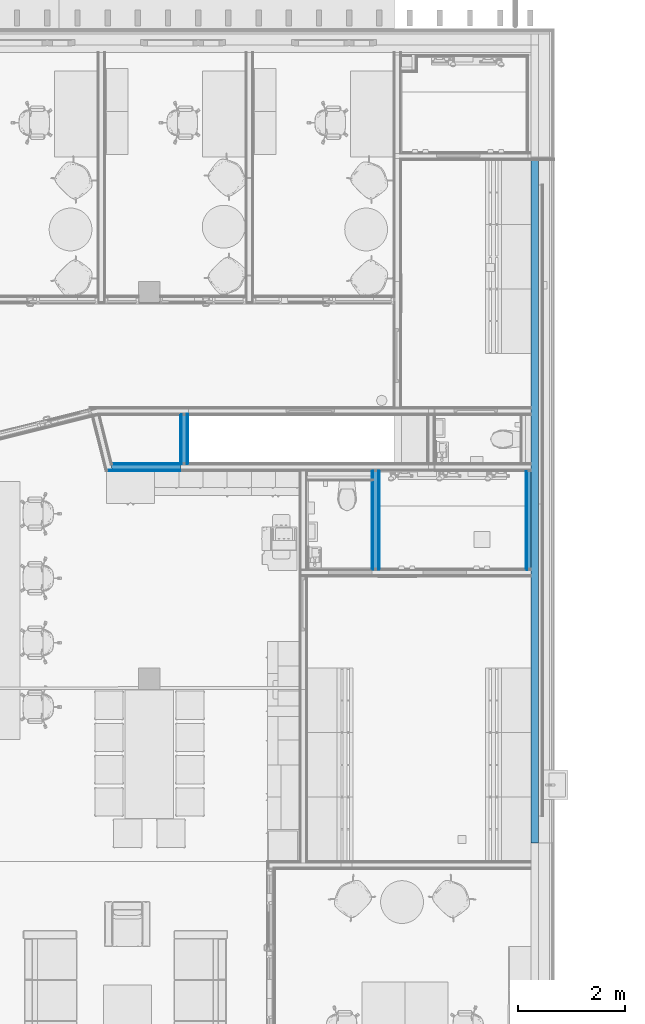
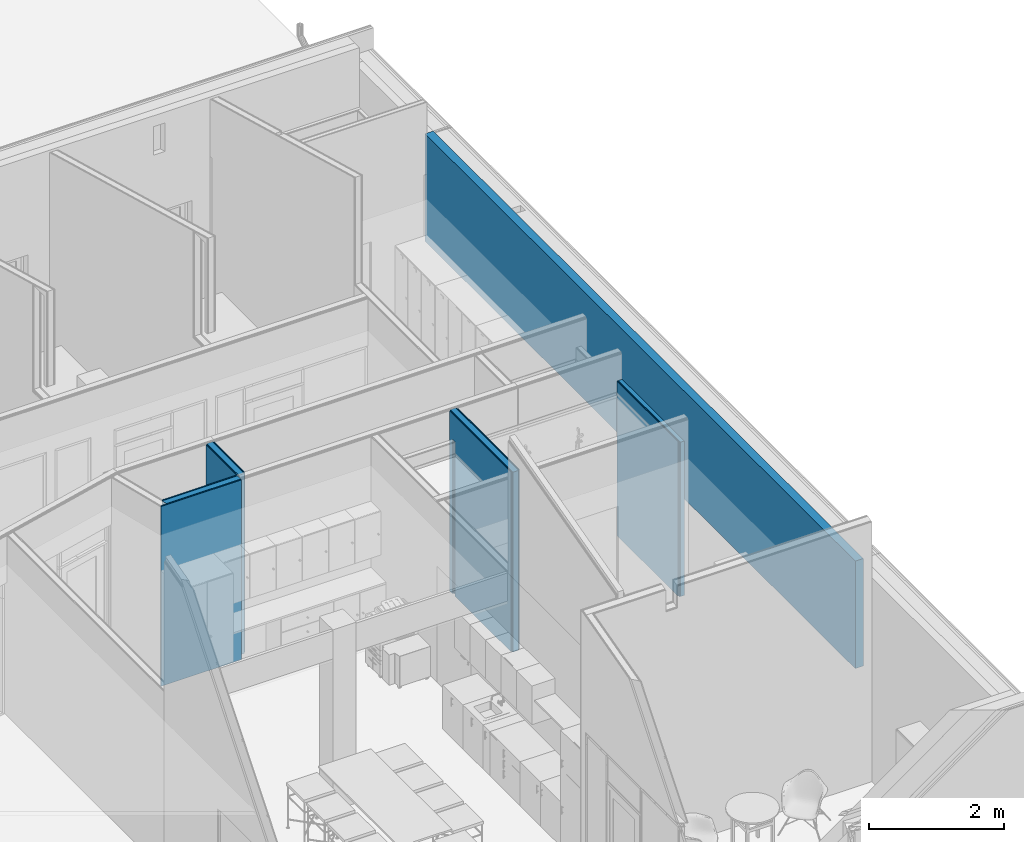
# One storey, part 79 of 153: 19 building element parts, 5 elements without a shape of their own.
"""IFC2X3 building model written with IfcOpenShell, lengths in millimetres."""

from ifc_helpers import new_model, entity, si_unit, converted_unit, derived_unit, money_unit, direction, frame, origin_with_axes, place, context, subcontext, project, spatial, faceted_brep, material, type_object, element, aggregate, save


model = new_model("IFC2X3")

# Units and contexts
model_context = context("Model", 3, precision=0.01, world=origin_with_axes(), true_north=direction((0.0, 1.0)))
body_context = subcontext(model_context, "Body", "Model", "MODEL_VIEW")
ifc_project = project(units=[si_unit("LENGTHUNIT", "METRE", prefix="MILLI"), si_unit("AREAUNIT", "SQUARE_METRE"), si_unit("VOLUMEUNIT", "CUBIC_METRE"), converted_unit("PLANEANGLEUNIT", "DEGREE", entity("IfcPlaneAngleMeasure", 0.0174532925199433), si_unit("PLANEANGLEUNIT", "RADIAN"), dimensions=[0, 0, 0, 0, 0, 0, 0]), money_unit("EUR"), converted_unit("TIMEUNIT", "Year", entity("IfcTimeMeasure", 31557600.0), si_unit("TIMEUNIT", "SECOND"), dimensions=[0, 0, 1, 0, 0, 0, 0]), si_unit("MASSUNIT", "GRAM", prefix="KILO"), si_unit("THERMODYNAMICTEMPERATUREUNIT", "DEGREE_CELSIUS"), si_unit("LUMINOUSINTENSITYUNIT", "LUMEN"), si_unit("ENERGYUNIT", "JOULE", prefix="MEGA"), derived_unit("THERMALCONDUCTANCEUNIT", [(si_unit("POWERUNIT", "WATT"), 1), (si_unit("LENGTHUNIT", "METRE"), -1), (si_unit("THERMODYNAMICTEMPERATUREUNIT", "KELVIN"), -1)]), derived_unit("SPECIFICHEATCAPACITYUNIT", [(si_unit("ENERGYUNIT", "JOULE"), 1), (si_unit("MASSUNIT", "GRAM", prefix="KILO"), -1), (si_unit("THERMODYNAMICTEMPERATUREUNIT", "KELVIN"), -1)]), derived_unit("MASSDENSITYUNIT", [(si_unit("MASSUNIT", "GRAM", prefix="KILO"), 1), (si_unit("VOLUMEUNIT", "CUBIC_METRE"), -1)])], contexts=[model_context])

# Site, building, storey
site_placement = place(None, frame((0.0, 0.0, 8650.0), z_axis=(0.0, 0.0, 1.0), x_axis=(1.0, 0.0, 0.0)))
site = spatial("IfcSite", under=ifc_project, at=site_placement, Name="43301:001:0844", CompositionType="ELEMENT")
building_placement = place(site_placement, origin_with_axes())
building = spatial("IfcBuilding", under=site, at=building_placement, Name="Kuressaare Ametikooli tuulikute mehaanikute õppekorpus", CompositionType="ELEMENT")
storey_placement = place(building_placement, frame((0.0, 0.0, 4100.0), z_axis=(0.0, 0.0, 1.0), x_axis=(1.0, 0.0, 0.0)))
storey = spatial("IfcBuildingStorey", under=building, at=storey_placement, Name="2.korrus", CompositionType="ELEMENT", Elevation=4100.0)

# Wall, building element parts
wall_type_1 = type_object("IfcWallType", Name="SS-2.1 147", PredefinedType="NOTDEFINED")
wall_1_placement = place(storey_placement, frame((126644.3242705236, 21634.06892395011, 0.0), z_axis=(0.0, 0.0, 1.0), x_axis=(0.0, -1.0, 0.0)))
wall_1 = element("IfcWall", 1, at=wall_1_placement, inside=storey, type_object=wall_type_1, Name="Sisesein")
ifc_material_1 = material(Name="Kipsplaat")
building_element_part_1_placement = place(wall_1_placement, origin_with_axes())
building_element_part_1 = element("IfcBuildingElementPart", 2, at=building_element_part_1_placement, material=ifc_material_1, Name="Kipsplaat", context=body_context, shape_type="Brep", body=[
    faceted_brep([(134.0000000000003, 0.0, 0.0), (134.0000000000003, 0.0, 3259.999999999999), (1046.999999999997, 0.0, 3259.999999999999), (1046.999999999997, 0.0, 0.0), (134.0000000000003, -13.00000000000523, 3259.999999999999), (134.0000000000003, -13.00000000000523, 0.0), (1046.999999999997, -13.00000000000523, 3259.999999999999), (1046.999999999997, -13.00000000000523, 0.0)], [[[0, 1, 2, 3]], [[4, 1, 0, 5]], [[1, 4, 6, 2]], [[7, 3, 2, 6]], [[5, 0, 3, 7]], [[4, 5, 7, 6]]]),
])
building_element_part_2_placement = place(wall_1_placement, origin_with_axes())
building_element_part_2 = element("IfcBuildingElementPart", 3, at=building_element_part_2_placement, material=ifc_material_1, Name="Kipsplaat", context=body_context, shape_type="Brep", body=[
    faceted_brep([(120.9999999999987, -13.00000000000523, 0.0), (120.9999999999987, -13.00000000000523, 3259.999999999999), (1059.999999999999, -13.00000000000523, 3259.999999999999), (1059.999999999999, -13.00000000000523, 0.0), (120.9999999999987, -25.99999999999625, 3259.999999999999), (120.9999999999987, -25.99999999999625, 0.0), (1059.999999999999, -25.99999999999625, 3259.999999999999), (1059.999999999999, -25.99999999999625, 0.0)], [[[0, 1, 2, 3]], [[4, 1, 0, 5]], [[1, 4, 6, 2]], [[7, 3, 2, 6]], [[5, 0, 3, 7]], [[4, 5, 7, 6]]]),
])
ifc_material_2 = material(Name="Soojustus - Mineraalvill pehme")
building_element_part_3_placement = place(wall_1_placement, origin_with_axes())
building_element_part_3 = element("IfcBuildingElementPart", 4, at=building_element_part_3_placement, material=ifc_material_2, Name="Soojustus - Mineraalvill pehme", context=body_context, shape_type="Brep", body=[
    faceted_brep([(1072.999999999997, -25.99999999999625, 0.0), (1072.999999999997, -120.9999999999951, 0.0), (120.9999999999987, -120.9999999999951, 0.0), (120.9999999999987, -25.99999999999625, 0.0), (1072.999999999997, -25.99999999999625, 3259.999999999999), (1072.999999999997, -120.9999999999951, 3259.999999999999), (120.9999999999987, -120.9999999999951, 3259.999999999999), (120.9999999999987, -25.99999999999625, 3259.999999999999)], [[[0, 1, 2, 3]], [[1, 0, 4, 5]], [[1, 5, 6, 2]], [[7, 3, 2, 6]], [[4, 0, 3, 7]], [[5, 4, 7, 6]]]),
])
building_element_part_4_placement = place(wall_1_placement, origin_with_axes())
building_element_part_4 = element("IfcBuildingElementPart", 5, at=building_element_part_4_placement, material=ifc_material_1, Name="Kipsplaat", context=body_context, shape_type="Brep", body=[
    faceted_brep([(1059.999999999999, -120.9999999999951, 0.0), (1059.999999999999, -134.0000000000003, 0.0), (134.0000000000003, -134.0000000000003, 0.0), (134.0000000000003, -120.9999999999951, 0.0), (1059.999999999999, -120.9999999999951, 3259.999999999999), (1059.999999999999, -134.0000000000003, 3259.999999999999), (134.0000000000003, -134.0000000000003, 3259.999999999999), (134.0000000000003, -120.9999999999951, 3259.999999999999)], [[[0, 1, 2, 3]], [[1, 0, 4, 5]], [[1, 5, 6, 2]], [[7, 3, 2, 6]], [[4, 0, 3, 7]], [[5, 4, 7, 6]]]),
])
building_element_part_5_placement = place(wall_1_placement, origin_with_axes())
building_element_part_5 = element("IfcBuildingElementPart", 6, at=building_element_part_5_placement, material=ifc_material_1, Name="Kipsplaat", context=body_context, shape_type="Brep", body=[
    faceted_brep([(1046.999999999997, -134.0000000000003, 0.0), (1046.999999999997, -147.0000000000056, 0.0), (146.9999999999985, -147.0000000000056, 0.0), (146.9999999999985, -134.0000000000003, 0.0), (1046.999999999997, -134.0000000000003, 3259.999999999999), (1046.999999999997, -147.0000000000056, 3259.999999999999), (146.9999999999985, -147.0000000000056, 3259.999999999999), (146.9999999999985, -134.0000000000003, 3259.999999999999)], [[[0, 1, 2, 3]], [[1, 0, 4, 5]], [[1, 5, 6, 2]], [[7, 3, 2, 6]], [[4, 0, 3, 7]], [[5, 4, 7, 6]]]),
])
aggregate(wall_1, [building_element_part_1, building_element_part_2, building_element_part_3, building_element_part_4, building_element_part_5])

wall_type_2 = type_object("IfcWallType", Name="SS-2.2 147", PredefinedType="NOTDEFINED")
wall_2_placement = place(storey_placement, frame((125222.9036366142, 20587.06892395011, 0.0), z_axis=(0.0, 0.0, 1.0), x_axis=(1.0, 0.0, 0.0)))
wall_2 = element("IfcWall", 7, at=wall_2_placement, inside=storey, type_object=wall_type_2, Name="Sisesein")
building_element_part_6_placement = place(wall_2_placement, origin_with_axes())
building_element_part_6 = element("IfcBuildingElementPart", 8, at=building_element_part_6_placement, material=ifc_material_2, Name="Soojustus - Mineraalvill pehme", context=body_context, shape_type="Brep", body=[
    faceted_brep([(-20.28751361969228, -25.9999999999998, 0.0), (1274.420633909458, -25.9999999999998, 0.0), (1274.420633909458, -120.9999999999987, 0.0), (3.523641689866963, -120.9999999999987, 0.0), (-20.28751361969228, -25.9999999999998, 3259.999999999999), (1274.420633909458, -25.9999999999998, 3259.999999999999), (1274.420633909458, -120.9999999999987, 3259.999999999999), (3.523641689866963, -120.9999999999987, 3259.999999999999)], [[[0, 1, 2, 3]], [[4, 5, 1, 0]], [[2, 1, 5, 6]], [[3, 2, 6, 7]], [[4, 0, 3, 7]], [[7, 6, 5, 4]]]),
])
building_element_part_7_placement = place(wall_2_placement, origin_with_axes())
building_element_part_7 = element("IfcBuildingElementPart", 9, at=building_element_part_7_placement, material=ifc_material_1, Name="Kipsplaat", context=body_context, shape_type="Brep", body=[
    faceted_brep([(-94.41496723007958, -120.9999999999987, 0.0), (1274.420633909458, -120.9999999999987, 0.0), (1274.420633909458, -134.0000000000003, 0.0), (-91.15659860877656, -134.0000000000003, 0.0), (-94.41496723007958, -120.9999999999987, 3259.999999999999), (1274.420633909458, -120.9999999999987, 3259.999999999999), (1274.420633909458, -134.0000000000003, 3259.999999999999), (-91.15659860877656, -134.0000000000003, 3259.999999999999)], [[[0, 1, 2, 3]], [[4, 5, 1, 0]], [[2, 1, 5, 6]], [[3, 2, 6, 7]], [[4, 0, 3, 7]], [[7, 6, 5, 4]]]),
])
building_element_part_8_placement = place(wall_2_placement, origin_with_axes())
building_element_part_8 = element("IfcBuildingElementPart", 10, at=building_element_part_8_placement, material=ifc_material_1, Name="Kipsplaat", context=body_context, shape_type="Brep", body=[
    faceted_brep([(-104.5587240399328, -134.0000000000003, 0.0), (1274.420633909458, -134.0000000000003, 0.0), (1274.420633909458, -146.9999999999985, 0.0), (-101.3003554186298, -146.9999999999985, 0.0), (-104.5587240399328, -134.0000000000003, 3259.999999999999), (1274.420633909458, -134.0000000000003, 3259.999999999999), (1274.420633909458, -146.9999999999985, 3259.999999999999), (-101.3003554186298, -146.9999999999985, 3259.999999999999)], [[[0, 1, 2, 3]], [[4, 5, 1, 0]], [[2, 1, 5, 6]], [[3, 2, 6, 7]], [[4, 0, 3, 7]], [[7, 6, 5, 4]]]),
])
building_element_part_9_placement = place(wall_2_placement, origin_with_axes())
building_element_part_9 = element("IfcBuildingElementPart", 11, at=building_element_part_9_placement, material=ifc_material_1, Name="Kipsplaat", context=body_context, shape_type="Brep", body=[
    faceted_brep([(0.0, 0.0, 0.0), (1274.420633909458, 0.0, 0.0), (1274.420633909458, -13.00000000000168, 0.0), (3.258368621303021, -13.00000000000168, 0.0), (0.0, 0.0, 3259.999999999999), (1274.420633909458, 0.0, 3259.999999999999), (1274.420633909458, -12.99999999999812, 3259.999999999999), (3.258368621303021, -12.99999999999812, 3259.999999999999)], [[[0, 1, 2, 3]], [[4, 5, 1, 0]], [[2, 1, 5, 6]], [[3, 2, 6, 7]], [[4, 0, 3, 7]], [[7, 6, 5, 4]]]),
])
building_element_part_10_placement = place(wall_2_placement, origin_with_axes())
building_element_part_10 = element("IfcBuildingElementPart", 12, at=building_element_part_10_placement, material=ifc_material_1, Name="Kipsplaat", context=body_context, shape_type="Brep", body=[
    faceted_brep([(-10.14375680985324, -13.00000000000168, 0.0), (1274.420633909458, -13.00000000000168, 0.0), (1274.420633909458, -25.9999999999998, 0.0), (-6.885388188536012, -25.9999999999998, 0.0), (-10.14375680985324, -12.99999999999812, 3259.999999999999), (1274.420633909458, -12.99999999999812, 3259.999999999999), (1274.420633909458, -25.9999999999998, 3259.999999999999), (-6.885388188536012, -25.9999999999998, 3259.999999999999)], [[[0, 1, 2, 3]], [[4, 5, 1, 0]], [[2, 1, 5, 6]], [[3, 2, 6, 7]], [[4, 0, 3, 7]], [[7, 6, 5, 4]]]),
])
aggregate(wall_2, [building_element_part_6, building_element_part_7, building_element_part_8, building_element_part_9, building_element_part_10])

wall_type_3 = type_object("IfcWallType", Name="SS-2.4 92", PredefinedType="NOTDEFINED")
wall_3_placement = place(storey_placement, frame((132932.9464416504, 20440.06892395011, 0.0), z_axis=(0.0, 0.0, 1.0), x_axis=(0.0, -1.0, 0.0)))
wall_3 = element("IfcWall", 13, at=wall_3_placement, inside=storey, type_object=wall_type_3, Name="Sisesein")
ifc_material_3 = material(Name="Air Space - Frame")
building_element_part_11_placement = place(wall_3_placement, origin_with_axes())
building_element_part_11 = element("IfcBuildingElementPart", 14, at=building_element_part_11_placement, material=ifc_material_3, Name="Air Space - Frame", context=body_context, shape_type="Brep", body=[
    faceted_brep([(1845.022048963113, 26.00000000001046, 2799.999999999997), (1845.022048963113, 26.00000000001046, 0.0), (1845.022048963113, 92.00000000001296, 0.0), (1845.022048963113, 92.00000000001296, 2799.999999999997), (0.0, 26.00000000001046, 2799.999999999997), (0.0, 26.00000000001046, 0.0), (0.0, 92.00000000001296, 0.0), (0.0, 92.00000000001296, 2799.999999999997)], [[[0, 1, 2, 3]], [[1, 0, 4, 5]], [[2, 1, 5, 6]], [[2, 6, 7, 3]], [[0, 3, 7, 4]], [[4, 7, 6, 5]]]),
])
ifc_material_4 = material(Name="Plywood")
building_element_part_12_placement = place(wall_3_placement, origin_with_axes())
building_element_part_12 = element("IfcBuildingElementPart", 15, at=building_element_part_12_placement, material=ifc_material_4, Name="Plywood", context=body_context, shape_type="Brep", body=[
    faceted_brep([(1845.022048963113, 13.00000000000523, 2799.999999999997), (1845.022048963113, 13.00000000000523, 0.0), (1845.022048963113, 26.00000000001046, 0.0), (1845.022048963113, 26.00000000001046, 2799.999999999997), (0.0, 13.00000000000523, 2799.999999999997), (0.0, 13.00000000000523, 0.0), (0.0, 26.00000000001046, 0.0), (0.0, 26.00000000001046, 2799.999999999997)], [[[0, 1, 2, 3]], [[1, 0, 4, 5]], [[2, 1, 5, 6]], [[2, 6, 7, 3]], [[0, 3, 7, 4]], [[4, 7, 6, 5]]]),
])
ifc_material_5 = material(Name="Plaster - Gypsum")
building_element_part_13_placement = place(wall_3_placement, origin_with_axes())
building_element_part_13 = element("IfcBuildingElementPart", 16, at=building_element_part_13_placement, material=ifc_material_5, Name="Plaster - Gypsum", context=body_context, shape_type="Brep", body=[
    faceted_brep([(1819.022048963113, 0.0, 2799.999999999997), (1819.022048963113, 0.0, 0.0), (1819.022048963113, 13.00000000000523, 0.0), (1819.022048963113, 13.00000000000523, 2799.999999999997), (0.0, 0.0, 2799.999999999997), (0.0, 0.0, 0.0), (0.0, 13.00000000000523, 0.0), (0.0, 13.00000000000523, 2799.999999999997)], [[[0, 1, 2, 3]], [[1, 0, 4, 5]], [[2, 1, 5, 6]], [[2, 6, 7, 3]], [[0, 3, 7, 4]], [[4, 7, 6, 5]]]),
])
aggregate(wall_3, [building_element_part_11, building_element_part_12, building_element_part_13])

wall_4_placement = place(storey_placement, frame((130138.4907946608, 20587.06892395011, 0.0), z_axis=(0.0, 0.0, 1.0), x_axis=(0.0, -1.0, 0.0)))
wall_4 = element("IfcWall", 17, at=wall_4_placement, inside=storey, type_object=wall_type_2, Name="Sisesein")
building_element_part_14_placement = place(wall_4_placement, origin_with_axes())
building_element_part_14 = element("IfcBuildingElementPart", 18, at=building_element_part_14_placement, material=ifc_material_1, Name="Kipsplaat", context=body_context, shape_type="Brep", body=[
    faceted_brep([(1966.022048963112, 60.49999999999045, 0.0), (146.9999999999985, 60.49999999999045, 0.0), (146.9999999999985, 73.49999999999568, 0.0), (1966.022048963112, 73.49999999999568, 0.0), (1966.022048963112, 60.49999999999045, 3259.999999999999), (146.9999999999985, 60.49999999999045, 3259.999999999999), (146.9999999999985, 73.49999999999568, 3259.999999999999), (1966.022048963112, 73.49999999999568, 3259.999999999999)], [[[0, 1, 2, 3]], [[4, 5, 1, 0]], [[2, 1, 5, 6]], [[3, 2, 6, 7]], [[3, 7, 4, 0]], [[7, 6, 5, 4]]]),
])
building_element_part_15_placement = place(wall_4_placement, origin_with_axes())
building_element_part_15 = element("IfcBuildingElementPart", 19, at=building_element_part_15_placement, material=ifc_material_2, Name="Soojustus - Mineraalvill pehme", context=body_context, shape_type="Brep", body=[
    faceted_brep([(1992.022048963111, -47.50000000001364, 0.0), (120.9999999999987, -47.50000000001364, 0.0), (120.9999999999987, 47.50000000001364, 0.0), (1992.022048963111, 47.50000000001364, 0.0), (1992.022048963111, -47.50000000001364, 3259.999999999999), (120.9999999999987, -47.50000000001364, 3259.999999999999), (120.9999999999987, 47.50000000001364, 3259.999999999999), (1992.022048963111, 47.50000000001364, 3259.999999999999)], [[[0, 1, 2, 3]], [[4, 5, 1, 0]], [[2, 1, 5, 6]], [[3, 2, 6, 7]], [[3, 7, 4, 0]], [[7, 6, 5, 4]]]),
])
building_element_part_16_placement = place(wall_4_placement, origin_with_axes())
building_element_part_16 = element("IfcBuildingElementPart", 20, at=building_element_part_16_placement, material=ifc_material_1, Name="Kipsplaat", context=body_context, shape_type="Brep", body=[
    faceted_brep([(1979.022048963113, 47.50000000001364, 0.0), (134.0000000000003, 47.50000000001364, 0.0), (134.0000000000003, 60.49999999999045, 0.0), (1979.022048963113, 60.49999999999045, 0.0), (1979.022048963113, 47.50000000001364, 3259.999999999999), (134.0000000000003, 47.50000000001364, 3259.999999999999), (134.0000000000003, 60.49999999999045, 3259.999999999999), (1979.022048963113, 60.49999999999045, 3259.999999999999)], [[[0, 1, 2, 3]], [[4, 5, 1, 0]], [[2, 1, 5, 6]], [[3, 2, 6, 7]], [[3, 7, 4, 0]], [[7, 6, 5, 4]]]),
])
building_element_part_17_placement = place(wall_4_placement, origin_with_axes())
building_element_part_17 = element("IfcBuildingElementPart", 21, at=building_element_part_17_placement, material=ifc_material_1, Name="Kipsplaat", context=body_context, shape_type="Brep", body=[
    faceted_brep([(234.9999999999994, -60.49999999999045, 2799.999999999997), (234.9999999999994, -60.49999999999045, 0.0), (146.9999999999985, -60.49999999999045, 0.0), (146.9999999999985, -60.49999999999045, 3259.999999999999), (1966.022048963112, -60.49999999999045, 3259.999999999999), (1966.022048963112, -60.49999999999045, 0.0), (313.9999999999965, -60.49999999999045, 0.0), (313.9999999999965, -60.49999999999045, 2799.999999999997), (234.9999999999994, -73.49999999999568, 2799.999999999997), (234.9999999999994, -73.49999999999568, 0.0), (146.9999999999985, -73.49999999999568, 0.0), (146.9999999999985, -73.49999999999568, 3259.999999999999), (1966.022048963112, -73.49999999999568, 3259.999999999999), (1966.022048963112, -73.49999999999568, 0.0), (313.9999999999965, -73.49999999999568, 0.0), (313.9999999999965, -73.49999999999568, 2799.999999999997)], [[[0, 1, 2, 3, 4, 5, 6, 7]], [[1, 0, 8, 9]], [[1, 9, 10, 2]], [[3, 2, 10, 11]], [[12, 4, 3, 11]], [[13, 5, 4, 12]], [[14, 6, 5, 13]], [[7, 6, 14, 15]], [[8, 0, 7, 15]], [[8, 15, 14, 13, 12, 11, 10, 9]]]),
])
building_element_part_18_placement = place(wall_4_placement, origin_with_axes())
building_element_part_18 = element("IfcBuildingElementPart", 22, at=building_element_part_18_placement, material=ifc_material_1, Name="Kipsplaat", context=body_context, shape_type="Brep", body=[
    faceted_brep([(234.9999999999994, -47.50000000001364, 2799.999999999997), (234.9999999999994, -47.50000000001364, 0.0), (134.0000000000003, -47.50000000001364, 0.0), (134.0000000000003, -47.50000000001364, 3259.999999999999), (1979.022048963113, -47.50000000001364, 3259.999999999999), (1979.022048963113, -47.50000000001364, 0.0), (313.9999999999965, -47.50000000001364, 0.0), (313.9999999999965, -47.50000000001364, 2799.999999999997), (234.9999999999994, -60.49999999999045, 2799.999999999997), (234.9999999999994, -60.49999999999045, 0.0), (134.0000000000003, -60.49999999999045, 0.0), (134.0000000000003, -60.49999999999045, 3259.999999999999), (1979.022048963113, -60.49999999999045, 3259.999999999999), (1979.022048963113, -60.49999999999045, 0.0), (313.9999999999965, -60.49999999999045, 0.0), (313.9999999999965, -60.49999999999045, 2799.999999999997)], [[[0, 1, 2, 3, 4, 5, 6, 7]], [[1, 0, 8, 9]], [[1, 9, 10, 2]], [[3, 2, 10, 11]], [[12, 4, 3, 11]], [[13, 5, 4, 12]], [[14, 6, 5, 13]], [[7, 6, 14, 15]], [[8, 0, 7, 15]], [[8, 15, 14, 13, 12, 11, 10, 9]]]),
])
aggregate(wall_4, [building_element_part_14, building_element_part_15, building_element_part_16, building_element_part_17, building_element_part_18])

# Wall, building element part
wall_type_4 = type_object("IfcWallType", Name="VS1 437", PredefinedType="NOTDEFINED")
wall_5_placement = place(storey_placement, frame((133024.9464386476, 13517.6577169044, 1749.999999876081), z_axis=(0.0, 0.0, 1.0), x_axis=(0.0, 1.0, 0.0)))
wall_5 = element("IfcWall", 23, at=wall_5_placement, inside=storey, type_object=wall_type_4, Name="Sisesein")
ifc_material_6 = material(Name="Puit - CLT")
building_element_part_19_placement = place(wall_5_placement, origin_with_axes())
building_element_part_19 = element("IfcBuildingElementPart", 24, at=building_element_part_19_placement, material=ifc_material_6, Name="Puit - CLT", context=body_context, shape_type="Brep", body=[
    faceted_brep([(0.0, -139.9999999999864, 0.0), (0.0, 0.0, 0.0), (12775.3309458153, 0.0, 0.0), (12775.3309458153, -139.9999999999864, 0.0), (0.0, -139.9999999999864, 1950.000000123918), (0.0, 0.0, 1950.000000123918), (12775.3309458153, 0.0, 1950.000000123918), (12775.3309458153, -139.9999999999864, 1950.000000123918)], [[[0, 1, 2, 3]], [[4, 5, 1, 0]], [[1, 5, 6, 2]], [[7, 3, 2, 6]], [[4, 0, 3, 7]], [[5, 4, 7, 6]]]),
])
aggregate(wall_5, [building_element_part_19])

save(model, "model.ifc")
